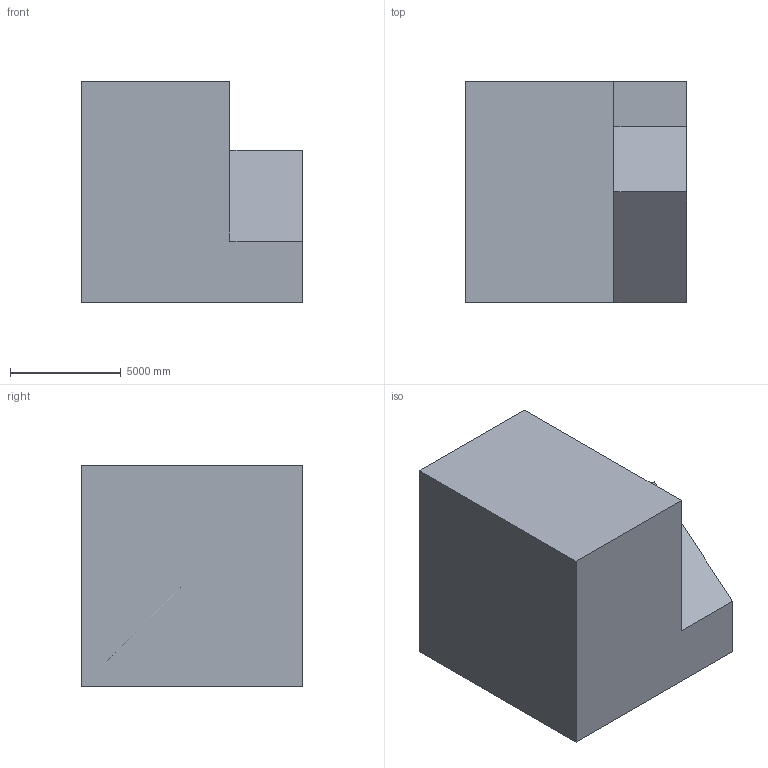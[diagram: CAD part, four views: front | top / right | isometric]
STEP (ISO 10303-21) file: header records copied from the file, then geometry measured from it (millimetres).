
FILE_DESCRIPTION (( 'STEP AP203' ), '1' );
FILE_NAME ('3.STEP', '2022-09-02T13:38:24', ( 'user' ), ( '' ), 'SwSTEP 2.0', 'SolidWorks 2021', '' );
FILE_SCHEMA (( 'CONFIG_CONTROL_DESIGN' ));
Length unit declared in the file: centimetre
Products named in the file (1): 3
Bounding box: 10000 x 10000 x 10000 mm (x, y, z)
Volume: 684110722829.5 mm3; surface area: 637608113.3 mm2
Topology: 1 solids, 1 shells, 13 faces, 33 edges, 22 vertices
Faces by surface type: plane 12, cylinder 1
Entity records: 466 total; most frequent: CARTESIAN_POINT 69, ORIENTED_EDGE 66, DIRECTION 63, EDGE_CURVE 33, VECTOR 31, LINE 31, VERTEX_POINT 22, AXIS2_PLACEMENT_3D 16
